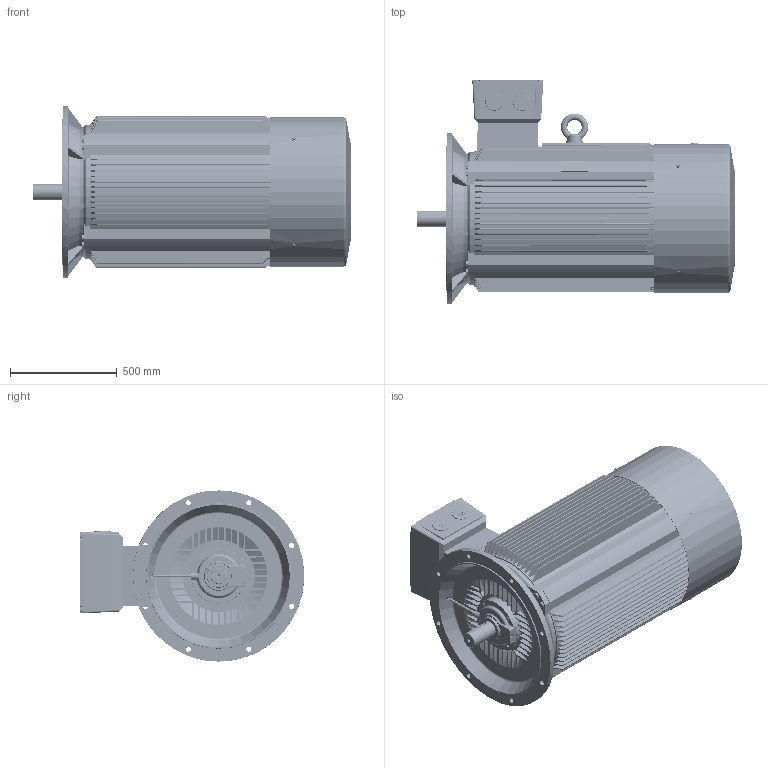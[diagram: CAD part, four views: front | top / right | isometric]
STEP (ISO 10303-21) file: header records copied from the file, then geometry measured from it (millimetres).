
FILE_DESCRIPTION (( 'STEP AP203' ), '1' );
FILE_NAME ('Y2-355L-2 B5装配体.STEP', '2014-07-12T01:07:26', ( '微软用户' ), ( '微软中国' ), 'SwSTEP 2.0', 'SolidWorks 2008', '' );
FILE_SCHEMA (( 'CONFIG_CONTROL_DESIGN' ));
Products named in the file (24): 355接线盒座_默认; 355接线盒盖_默认; 扣塞_默认; M10-90_默认; 355-2后轴承外盖_默认; 355-2前轴承外盖_默认; 355-2后端盖_默认; 355接线盒座垫_默认; Y2-355L-2 B5蚾饜极; 355 B5机壳_默认; 355L-2 转轴_默认; 355-4风叶_默认; M63螺塞_默认; 355铭牌_默认; 铜油嘴_默认; M12_默认; ｷ釁ﾖﾂﾝｶ､ｼﾓｵ貳ｬ_ﾄｬﾈﾏ; M36吊环_默认; 355-4油管_默认; M16_默认; 355-2 B5法兰_默认; 355-2油封_默认; 355-2风罩_默认; 355接线盒座垫、盖垫_默认
Assembly tree (43 placements, depth 2):
  Y2-355L-2 B5蚾饜极
    355-2油封_默认  x2
    M16_默认  x8
    ｷ釁ﾖﾂﾝｶ､ｼﾓｵ貳ｬ_ﾄｬﾈﾏ  x4
    355-2后端盖_默认
    355-4油管_默认  x2
    355接线盒盖_默认
    M12_默认  x4
    355铭牌_默认
    M10-90_默认  x4
    M36吊环_默认
    355-2后轴承外盖_默认
    355 B5机壳_默认
    铜油嘴_默认  x2
    355接线盒座垫、盖垫_默认
    M63螺塞_默认  x2
    扣塞_默认
    355-2风罩_默认
    355-2前轴承外盖_默认
    355L-2 转轴_默认
    355-2 B5法兰_默认
    355接线盒座垫_默认
    355-4风叶_默认
    355接线盒座_默认
Bounding box: 1486 x 1049 x 800 mm (x, y, z)
Volume: 114886483.6 mm3; surface area: 15940717.1 mm2
Topology: 47 solids, 47 shells, 8672 faces, 24767 edges, 16305 vertices
Faces by surface type: plane 4159, cylinder 3360, torus 459, cone 357, bspline 323, sphere 14
Entity records: 292118 total; most frequent: CARTESIAN_POINT 73672, ORIENTED_EDGE 46268, DIRECTION 44048, EDGE_CURVE 23134, AXIS2_PLACEMENT_3D 15456, VERTEX_POINT 15247, VECTOR 13136, LINE 13136
